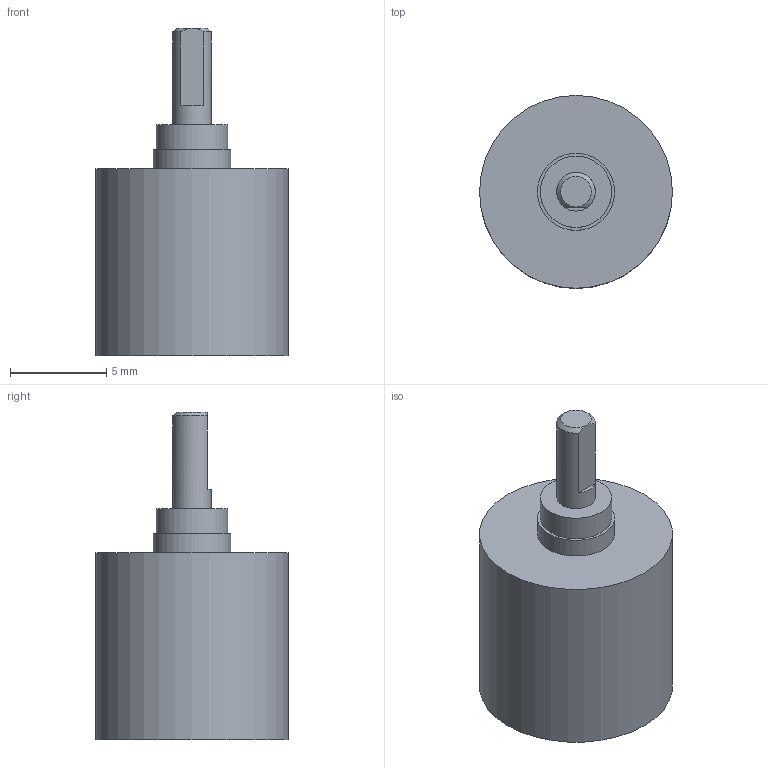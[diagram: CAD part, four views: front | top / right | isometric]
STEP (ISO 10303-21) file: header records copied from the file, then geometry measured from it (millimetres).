
FILE_DESCRIPTION(/* description */ (''),/* implementation_level */ '2;1');
FILE_NAME(/* name */ '10-1_1.stp',/* time_stamp */ '2016-08-24T08:11:28+02:00',/* author */ ('DR. FRITZ FAULHABER GmbH & Co. KG'),/* organization */ ('DR. FRITZ FAULHABER GmbH & Co. KG'),/* preprocessor_version */ 'ST-DEVELOPER v16',/* originating_system */ 'SIEMENS PLM Software NX 10.0',/* authorisation */ '');
FILE_SCHEMA (('AUTOMOTIVE_DESIGN { 1 0 10303 214 3 1 1 1 }'));
Length unit declared in the file: millimetre
Products named in the file (1): H00000407_A
Bounding box: 10 x 10 x 17 mm (x, y, z)
Volume: 716.6 mm3; surface area: 589.6 mm2
Topology: 1 solids, 1 shells, 20 faces, 36 edges, 24 vertices
Faces by surface type: plane 10, cylinder 8, cone 2
Full cylindrical faces by diameter (mm): 2 x1, 3.12 x1, 3.32 x1, 3.7 x1, 4 x1, 4.959 x1, 6 x1, 10 x1
Entity records: 452 total; most frequent: DIRECTION 81, CARTESIAN_POINT 79, ORIENTED_EDGE 46, AXIS2_PLACEMENT_3D 39, EDGE_LOOP 35, FACE_BOUND 30, EDGE_CURVE 23, ADVANCED_FACE 20
